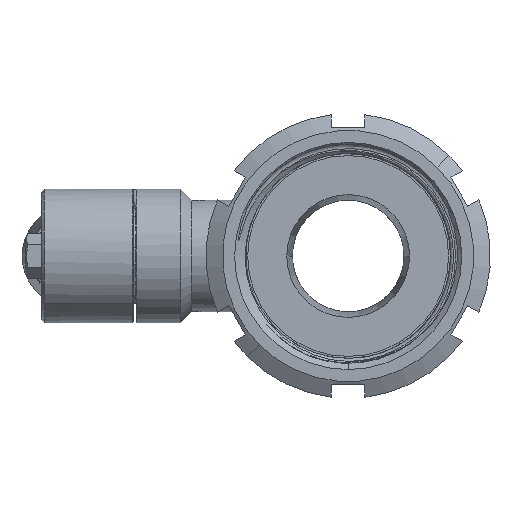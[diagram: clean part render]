
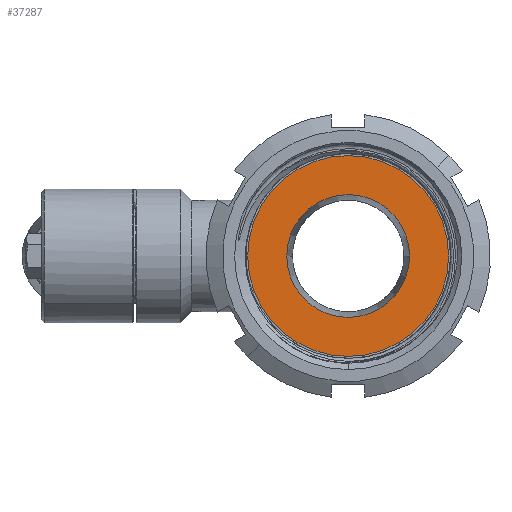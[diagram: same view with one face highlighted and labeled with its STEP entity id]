
A CAD part, left-side view. The second image highlights one B-rep face of the part: STEP entity #37287.
In plain terms, the highlighted planar face has unit normal (-1, 0, 0).
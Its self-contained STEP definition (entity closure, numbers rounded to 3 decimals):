
#7155=CARTESIAN_POINT('',(-57.,0.,0.));
#7156=DIRECTION('',(-1.,0.,0.));
#7157=DIRECTION('',(0.,1.,0.));
#7158=AXIS2_PLACEMENT_3D('',#7155,#7156,#7157);
#7178=CARTESIAN_POINT('',(-57.,0.,0.));
#7179=DIRECTION('',(-1.,0.,0.));
#7180=DIRECTION('',(0.,0.,-1.));
#7181=AXIS2_PLACEMENT_3D('',#7178,#7179,#7180);
#12223=CARTESIAN_POINT('',(-57.,0.,0.));
#12224=DIRECTION('',(-1.,0.,0.));
#12225=DIRECTION('',(0.,0.,1.));
#12226=AXIS2_PLACEMENT_3D('',#12223,#12224,#12225);
#12231=CARTESIAN_POINT('',(-57.,0.,0.));
#12232=DIRECTION('',(-1.,0.,0.));
#12233=DIRECTION('',(0.,-1.,0.));
#12234=AXIS2_PLACEMENT_3D('',#12231,#12232,#12233);
#31381=CARTESIAN_POINT('',(-57.,11.006,0.));
#31382=CARTESIAN_POINT('',(-57.,-11.006,0.));
#31383=VERTEX_POINT('',#31381);
#31384=VERTEX_POINT('',#31382);
#31393=CARTESIAN_POINT('',(-57.,0.,-18.));
#31394=CARTESIAN_POINT('',(-57.,0.,18.));
#31395=VERTEX_POINT('',#31393);
#31396=VERTEX_POINT('',#31394);
#37271=CARTESIAN_POINT('',(-57.,0.,0.));
#37272=DIRECTION('',(1.,0.,0.));
#37273=DIRECTION('',(0.,-1.,0.));
#37274=AXIS2_PLACEMENT_3D('',#37271,#37272,#37273);
#37275=PLANE('',#37274);
#37277=ORIENTED_EDGE('',*,*,#37276,.F.);
#37279=ORIENTED_EDGE('',*,*,#37278,.F.);
#37280=EDGE_LOOP('',(#37277,#37279));
#37281=FACE_OUTER_BOUND('',#37280,.F.);
#37282=ORIENTED_EDGE('',*,*,#37261,.T.);
#37284=ORIENTED_EDGE('',*,*,#37283,.T.);
#37285=EDGE_LOOP('',(#37282,#37284));
#37286=FACE_BOUND('',#37285,.F.);
#37287=ADVANCED_FACE('',(#37281,#37286),#37275,.F.);
#7159=CIRCLE('',#7158,11.006);
#7182=CIRCLE('',#7181,18.);
#12227=CIRCLE('',#12226,18.);
#12235=CIRCLE('',#12234,11.006);
#37261=EDGE_CURVE('',#31383,#31384,#7159,.T.);
#37276=EDGE_CURVE('',#31395,#31396,#7182,.T.);
#37278=EDGE_CURVE('',#31396,#31395,#12227,.T.);
#37283=EDGE_CURVE('',#31384,#31383,#12235,.T.);
